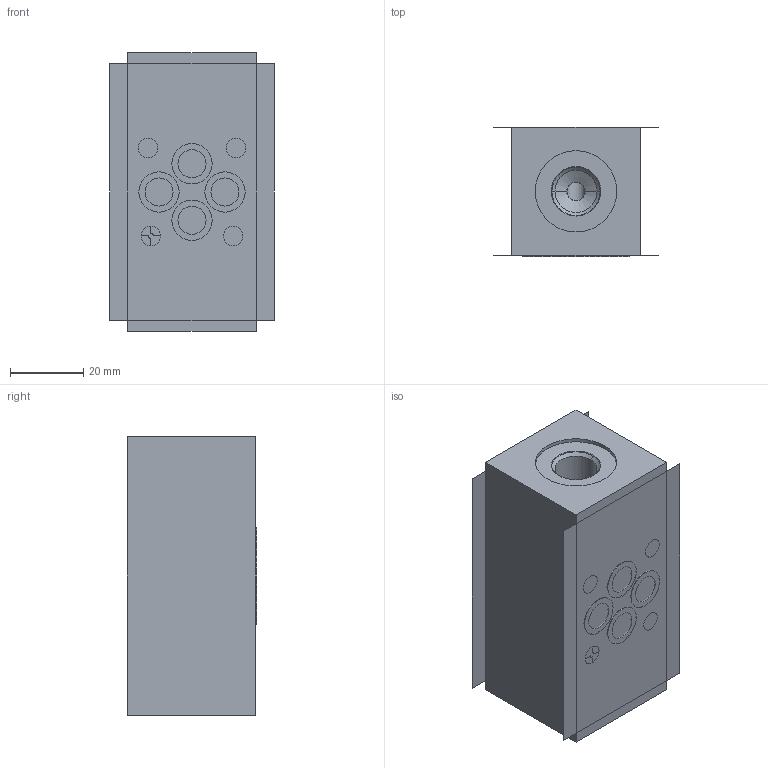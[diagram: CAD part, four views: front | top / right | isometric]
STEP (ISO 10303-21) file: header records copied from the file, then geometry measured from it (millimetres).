
FILE_DESCRIPTION((''),'2;1');
FILE_NAME('236517_ASM','2023-10-11T',('l.soukupova'),(''),'PRO/ENGINEER BY PARAMETRIC TECHNOLOGY CORPORATION, 2015440','PRO/ENGINEER BY PARAMETRIC TECHNOLOGY CORPORATION, 2015440','');
FILE_SCHEMA(('AUTOMOTIVE_DESIGN { 1 0 10303 214 1 1 1 1 }'));
Length unit declared in the file: millimetre
Products named in the file (3): 233120; DKAR00011_N70; 236517_ASM
Assembly tree (5 placements, depth 2):
  236517_ASM
    233120
    DKAR00011_N70  x4
Bounding box: 45 x 35.28 x 76 mm (x, y, z)
Volume: 82660.4 mm3; surface area: 26997.4 mm2
Topology: 5 solids, 13 shells, 102 faces, 377 edges, 367 vertices
Faces by surface type: cylinder 62, plane 28, cone 12
Entity records: 5212 total; most frequent: CARTESIAN_POINT 731, DIRECTION 688, PRESENTATION_STYLE_ASSIGNMENT 414, STYLED_ITEM 402, CURVE_STYLE 388, ORIENTED_EDGE 376, AXIS2_PLACEMENT_3D 247, EDGE_CURVE 204
